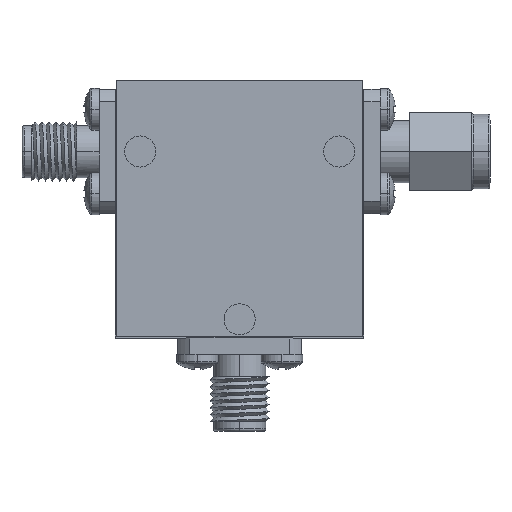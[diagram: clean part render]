
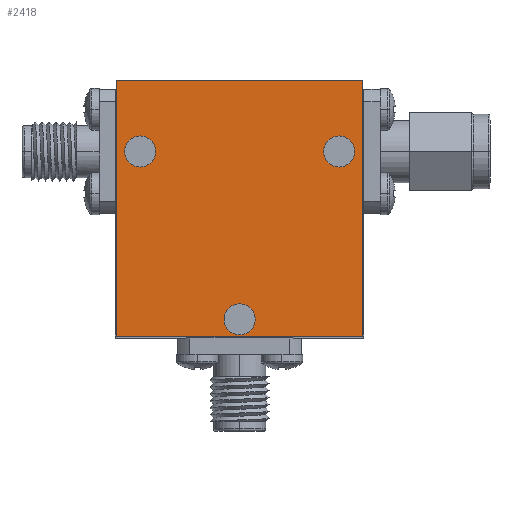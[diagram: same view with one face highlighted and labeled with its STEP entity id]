
A CAD part, top view. The second image highlights one B-rep face of the part: STEP entity #2418.
In plain terms, the highlighted planar face has unit normal (0, 0, 1).
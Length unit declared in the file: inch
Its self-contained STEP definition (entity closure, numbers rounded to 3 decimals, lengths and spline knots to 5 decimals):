
#110 = CARTESIAN_POINT ( 'NONE',  ( 0.4, 0.23, 0.574 ) ) ;
#181 = CARTESIAN_POINT ( 'NONE',  ( 0., 0., 0.574 ) ) ;
#228 = CARTESIAN_POINT ( 'NONE',  ( 0.4, 0.23, 0.574 ) ) ;
#263 = DIRECTION ( 'NONE',  ( 1., 0., 0. ) ) ;
#339 = ORIENTED_EDGE ( 'NONE', *, *, #2703, .F. ) ;
#360 = VERTEX_POINT ( 'NONE', #4628 ) ;
#362 = ORIENTED_EDGE ( 'NONE', *, *, #4569, .F. ) ;
#386 = LINE ( 'NONE', #5373, #4970 ) ;
#501 = CARTESIAN_POINT ( 'NONE',  ( -0.495, 0.515, 0.574 ) ) ;
#596 = CARTESIAN_POINT ( 'NONE',  ( -0.4, 0.23, 0.574 ) ) ;
#640 = CARTESIAN_POINT ( 'NONE',  ( -0.495, 0.515, 0.574 ) ) ;
#663 = DIRECTION ( 'NONE',  ( 0., 0., 1. ) ) ;
#710 = DIRECTION ( 'NONE',  ( 1., 0., 0. ) ) ;
#733 = FACE_BOUND ( 'NONE', #4070, .T. ) ;
#846 = ORIENTED_EDGE ( 'NONE', *, *, #1309, .F. ) ;
#850 = AXIS2_PLACEMENT_3D ( 'NONE', #228, #663, #710 ) ;
#939 = ORIENTED_EDGE ( 'NONE', *, *, #3260, .T. ) ;
#967 = CIRCLE ( 'NONE', #2047, 0.0625 ) ;
#976 = DIRECTION ( 'NONE',  ( 0., 0., 1. ) ) ;
#1001 = DIRECTION ( 'NONE',  ( 1., 0., 0. ) ) ;
#1037 = VERTEX_POINT ( 'NONE', #3102 ) ;
#1042 = ORIENTED_EDGE ( 'NONE', *, *, #4371, .T. ) ;
#1141 = CARTESIAN_POINT ( 'NONE',  ( -0.0625, -0.445, 0.574 ) ) ;
#1256 = FACE_BOUND ( 'NONE', #5015, .T. ) ;
#1266 = DIRECTION ( 'NONE',  ( 0., 1., 0. ) ) ;
#1300 = VERTEX_POINT ( 'NONE', #2227 ) ;
#1309 = EDGE_CURVE ( 'NONE', #4795, #3923, #3315, .T. ) ;
#1382 = DIRECTION ( 'NONE',  ( 1., 0., 0. ) ) ;
#1443 = CIRCLE ( 'NONE', #5084, 0.0625 ) ;
#1483 = DIRECTION ( 'NONE',  ( 0., 0., 1. ) ) ;
#1493 = VERTEX_POINT ( 'NONE', #4367 ) ;
#1527 = CIRCLE ( 'NONE', #4576, 0.0625 ) ;
#1571 = ORIENTED_EDGE ( 'NONE', *, *, #4493, .F. ) ;
#1618 = VERTEX_POINT ( 'NONE', #3647 ) ;
#1698 = ORIENTED_EDGE ( 'NONE', *, *, #5463, .F. ) ;
#1798 = ORIENTED_EDGE ( 'NONE', *, *, #2474, .T. ) ;
#1867 = CARTESIAN_POINT ( 'NONE',  ( 0., -0.445, 0.574 ) ) ;
#1932 = LINE ( 'NONE', #3620, #4568 ) ;
#1942 = AXIS2_PLACEMENT_3D ( 'NONE', #181, #2728, #3966 ) ;
#2047 = AXIS2_PLACEMENT_3D ( 'NONE', #1867, #1483, #4896 ) ;
#2164 = VERTEX_POINT ( 'NONE', #3415 ) ;
#2207 = CARTESIAN_POINT ( 'NONE',  ( -0.4, 0.23, 0.574 ) ) ;
#2227 = CARTESIAN_POINT ( 'NONE',  ( 0.3375, 0.23, 0.574 ) ) ;
#2299 = DIRECTION ( 'NONE',  ( 0., 0., 1. ) ) ;
#2320 = DIRECTION ( 'NONE',  ( 0., 0., 1. ) ) ;
#2408 = CIRCLE ( 'NONE', #850, 0.0625 ) ;
#2418 = ADVANCED_FACE ( 'NONE', ( #1256, #733, #5293, #3020 ), #3105, .F. ) ;
#2474 = EDGE_CURVE ( 'NONE', #4663, #5255, #3015, .T. ) ;
#2640 = EDGE_LOOP ( 'NONE', ( #1042, #1798, #939, #2940 ) ) ;
#2665 = EDGE_CURVE ( 'NONE', #360, #2164, #386, .T. ) ;
#2703 = EDGE_CURVE ( 'NONE', #1618, #1300, #2408, .T. ) ;
#2728 = DIRECTION ( 'NONE',  ( 0., 0., -1. ) ) ;
#2906 = CARTESIAN_POINT ( 'NONE',  ( 0.0625, -0.445, 0.574 ) ) ;
#2940 = ORIENTED_EDGE ( 'NONE', *, *, #2665, .T. ) ;
#3015 = LINE ( 'NONE', #640, #4157 ) ;
#3020 = FACE_OUTER_BOUND ( 'NONE', #2640, .T. ) ;
#3102 = CARTESIAN_POINT ( 'NONE',  ( -0.3375, 0.23, 0.574 ) ) ;
#3105 = PLANE ( 'NONE',  #1942 ) ;
#3226 = DIRECTION ( 'NONE',  ( 0., 0., 1. ) ) ;
#3260 = EDGE_CURVE ( 'NONE', #5255, #360, #1932, .T. ) ;
#3315 = CIRCLE ( 'NONE', #5525, 0.0625 ) ;
#3415 = CARTESIAN_POINT ( 'NONE',  ( 0.495, -0.515, 0.574 ) ) ;
#3620 = CARTESIAN_POINT ( 'NONE',  ( -0.495, -0.515, 0.574 ) ) ;
#3643 = DIRECTION ( 'NONE',  ( -1., 0., 0. ) ) ;
#3647 = CARTESIAN_POINT ( 'NONE',  ( 0.4625, 0.23, 0.574 ) ) ;
#3712 = AXIS2_PLACEMENT_3D ( 'NONE', #596, #3226, #1001 ) ;
#3923 = VERTEX_POINT ( 'NONE', #1141 ) ;
#3966 = DIRECTION ( 'NONE',  ( -1., 0., 0. ) ) ;
#4070 = EDGE_LOOP ( 'NONE', ( #339, #5334 ) ) ;
#4085 = LINE ( 'NONE', #5112, #4612 ) ;
#4157 = VECTOR ( 'NONE', #3643, 39.37008 ) ;
#4340 = DIRECTION ( 'NONE',  ( 1., 0., 0. ) ) ;
#4362 = EDGE_LOOP ( 'NONE', ( #1698, #1571 ) ) ;
#4367 = CARTESIAN_POINT ( 'NONE',  ( -0.4625, 0.23, 0.574 ) ) ;
#4371 = EDGE_CURVE ( 'NONE', #2164, #4663, #4085, .T. ) ;
#4463 = CARTESIAN_POINT ( 'NONE',  ( 0.495, 0.515, 0.574 ) ) ;
#4493 = EDGE_CURVE ( 'NONE', #1493, #1037, #1443, .T. ) ;
#4558 = CIRCLE ( 'NONE', #3712, 0.0625 ) ;
#4568 = VECTOR ( 'NONE', #5323, 39.37008 ) ;
#4569 = EDGE_CURVE ( 'NONE', #3923, #4795, #967, .T. ) ;
#4576 = AXIS2_PLACEMENT_3D ( 'NONE', #110, #2299, #1382 ) ;
#4612 = VECTOR ( 'NONE', #1266, 39.37008 ) ;
#4628 = CARTESIAN_POINT ( 'NONE',  ( -0.495, -0.515, 0.574 ) ) ;
#4663 = VERTEX_POINT ( 'NONE', #4463 ) ;
#4795 = VERTEX_POINT ( 'NONE', #2906 ) ;
#4896 = DIRECTION ( 'NONE',  ( 1., 0., 0. ) ) ;
#4897 = CARTESIAN_POINT ( 'NONE',  ( 0., -0.445, 0.574 ) ) ;
#4970 = VECTOR ( 'NONE', #263, 39.37008 ) ;
#5015 = EDGE_LOOP ( 'NONE', ( #846, #362 ) ) ;
#5084 = AXIS2_PLACEMENT_3D ( 'NONE', #2207, #976, #4340 ) ;
#5112 = CARTESIAN_POINT ( 'NONE',  ( 0.495, -0.515, 0.574 ) ) ;
#5255 = VERTEX_POINT ( 'NONE', #501 ) ;
#5293 = FACE_BOUND ( 'NONE', #4362, .T. ) ;
#5317 = DIRECTION ( 'NONE',  ( 1., 0., 0. ) ) ;
#5323 = DIRECTION ( 'NONE',  ( 0., -1., 0. ) ) ;
#5334 = ORIENTED_EDGE ( 'NONE', *, *, #5489, .F. ) ;
#5373 = CARTESIAN_POINT ( 'NONE',  ( -0.495, -0.515, 0.574 ) ) ;
#5463 = EDGE_CURVE ( 'NONE', #1037, #1493, #4558, .T. ) ;
#5489 = EDGE_CURVE ( 'NONE', #1300, #1618, #1527, .T. ) ;
#5525 = AXIS2_PLACEMENT_3D ( 'NONE', #4897, #2320, #5317 ) ;
